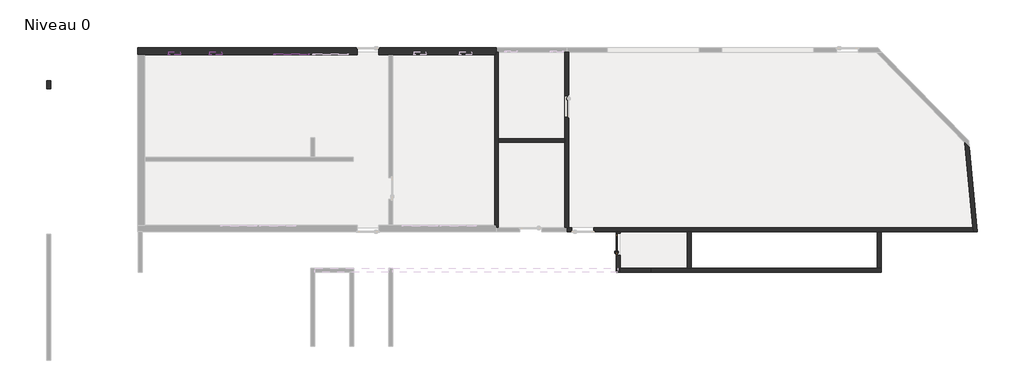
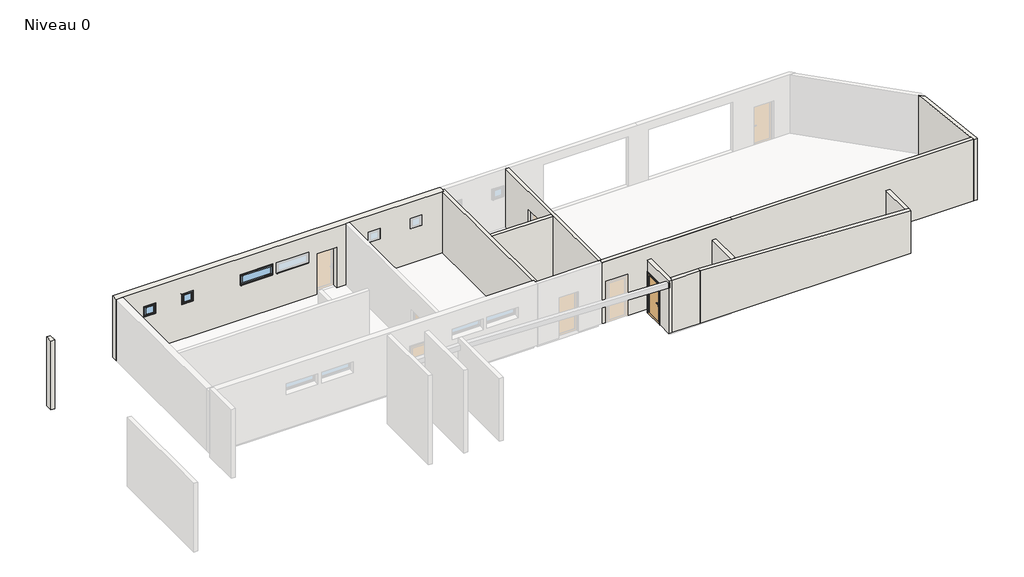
# One storey, part 2 of 3: 12 walls, 3 windows, 1 door.
"""IFC4 building model written with IfcOpenShell, lengths in millimetres."""

from ifc_helpers import new_model, si_unit, frame, origin, origin_with_axes, place, context, project, spatial, polyline, circle_curve, outline, extrude, faceted_brep, transform, mapped, element, save
from ifc_brep_helpers import plane_surface, revolved_surface, advanced_brep
from components import pvc_panneau_plein_0_93_x_2_04_155e41a3, rect_1_fixe_150x50_26ae5af5, rect_1_fixe_50x50_addd11ee

model = new_model("IFC4")

# Units and contexts
model_context = context("Model", 3, world=origin())
ifc_project = project(units=[si_unit("LENGTHUNIT", "METRE", prefix="MILLI")], contexts=[model_context])

# Site, building, storey
site = spatial("IfcSite", under=ifc_project)
building = spatial("IfcBuilding", under=site)
storey = spatial("IfcBuildingStorey", under=building, Name="Niveau 0", Elevation=0.0)

# Door
placement = place(None, origin())
pvc_panneau_plein_0_93_x_2_04_shape = pvc_panneau_plein_0_93_x_2_04_155e41a3(model_context)
element("IfcDoor", 1, ObjectType="PVC Panneau Plein : 0.93 x 2.04", at=placement, inside=storey, context=model_context, shape_type="MappedRepresentation", body=[
    mapped(pvc_panneau_plein_0_93_x_2_04_shape, transform((8619.8348013, -5570.8814156, -170.0), x_axis=(0.0, 1.0, 0.0), y_axis=(-1.0, 0.0, 0.0), z_axis=(0.0, 0.0, 1.0))),
])

# Walls
element("IfcWall", 2, ObjectType="Refend. Voile BA 16", at=placement, inside=storey, context=model_context, shape_type="Brep", body=[
    faceted_brep([(3360.5386339, -4850.8814156, 0.0), (3360.5386339, -4445.8603832, 0.0), (3360.5386339, -4265.8603832, 0.0), (3360.5386339, -1114.4275897, 0.0), (3360.5386339, -954.4275897, 0.0), (3360.5386339, 2829.1185844, 0.0), (3360.5386339, 2829.1185844, 3100.0), (3360.5386339, -954.4275897, 3100.0), (3360.5386339, -1114.4275897, 3100.0), (3360.5386339, -4850.8814156, 3100.0), (3200.5386339, -4730.8814156, 0.0), (3200.5386339, -4730.8814156, 3100.0), (3200.5386339, 2709.1185844, 3100.0), (3200.5386339, 2709.1185844, 0.0), (3200.5386339, -4265.8603832, 0.0), (3200.5386339, -4445.8603832, 0.0), (3280.5386339, -4850.8814156, 0.0), (3280.5386339, -4730.8814156, 0.0), (3280.5386339, 2709.1185844, 0.0), (3280.5386339, 2829.1185844, 0.0), (3280.5386339, -4850.8814156, 3100.0), (3280.5386339, -4730.8814156, 3100.0), (3280.5386339, 2829.1185844, 3100.0), (3280.5386339, 2709.1185844, 3100.0)], [[[0, 1, 2, 3, 4, 5, 6, 7, 8, 9]], [[10, 11, 12, 13, 14, 15]], [[5, 4, 3, 2, 1, 0, 16, 17, 10, 15, 14, 13, 18, 19]], [[0, 9, 20, 16]], [[20, 21, 17, 16]], [[21, 11, 10, 17]], [[6, 5, 19, 22]], [[19, 18, 23, 22]], [[18, 13, 12, 23]], [[9, 8, 7, 6, 22, 23, 12, 11, 21, 20]]]),
])
element("IfcWall", 3, ObjectType="Refend. Voile BA 16", at=placement, inside=storey, context=model_context, shape_type="SweptSolid", body=[
    extrude(outline(polyline([(6280.5386339, -1114.4275897), (3360.5386339, -1114.4275897), (3360.5386339, -954.4275897), (6280.5386339, -954.4275897), (6280.5386339, -1114.4275897)])), origin_with_axes(), (0.0, 0.0, 1.0), 3100.0),
])
element("IfcWall", 4, ObjectType="Refend. Voile BA 16", at=placement, inside=storey, context=model_context, shape_type="Brep", body=[
    faceted_brep([(6440.5386339, -4850.8814156, 0.0), (6440.5386339, 2829.1185844, 0.0), (6440.5386339, 2829.1185844, 3100.0), (6440.5386339, -4850.8814156, 3100.0), (6440.5386339, -29.4275897, 150.0), (6440.5386339, -69.4275897, 150.0), (6440.5386339, -69.4275897, 2240.0), (6440.5386339, 960.5724103, 2240.0), (6440.5386339, 960.5724103, 150.0), (6440.5386339, 920.5724103, 150.0), (6280.5386339, 2829.1185844, 0.0), (6280.5386339, -954.4275897, 0.0), (6280.5386339, -1114.4275897, 0.0), (6280.5386339, -4850.8814156, 0.0), (6280.5386339, -4850.8814156, 3100.0), (6280.5386339, -1114.4275897, 3100.0), (6280.5386339, -954.4275897, 3100.0), (6280.5386339, 2829.1185844, 3100.0), (6280.5386339, 920.5724103, 2200.0), (6280.5386339, -29.4275897, 2200.0), (6280.5386339, -29.4275897, 150.0), (6280.5386339, 920.5724103, 150.0), (6360.5386339, -4850.8814156, 0.0), (6360.5386339, 2829.1185844, 0.0), (6360.5386339, 2829.1185844, 3100.0), (6360.5386339, -4850.8814156, 3100.0), (6390.5386339, 920.5724103, 2200.0), (6390.5386339, -29.4275897, 2200.0), (6390.5386339, -29.4275897, 150.0), (6390.5386339, -69.4275897, 150.0), (6390.5386339, 960.5724103, 150.0), (6390.5386339, 920.5724103, 150.0), (6390.5386339, 960.5724103, 2240.0), (6390.5386339, -69.4275897, 2240.0)], [[[0, 1, 2, 3], [4, 5, 6, 7, 8, 9]], [[10, 11, 12, 13, 14, 15, 16, 17], [18, 19, 20, 21]], [[1, 0, 22, 13, 12, 11, 10, 23]], [[2, 1, 23, 10, 17, 24]], [[0, 3, 25, 14, 13, 22]], [[26, 27, 19, 18]], [[28, 29, 5, 4, 9, 8, 30, 31, 21, 20]], [[31, 26, 18, 21]], [[27, 28, 20, 19]], [[30, 8, 7, 32]], [[27, 26, 31, 30, 32, 33, 29, 28]], [[32, 7, 6, 33]], [[5, 29, 33, 6]], [[3, 2, 24, 17, 16, 15, 14, 25]]]),
])
element("IfcWall", 5, ObjectType="Ext. Voile BA 18", at=placement, inside=storey, context=model_context, shape_type="Brep", body=[
    faceted_brep([(23743.4784294, -1128.0520946, 0.0), (24105.7807489, -4850.8814156, 0.0), (24123.2981831, -5030.8814156, 0.0), (24123.2981831, -5030.8814156, 3099.1810012), (23743.4784294, -1128.0520946, 3099.1810012), (23944.319839, -1333.4694532, 0.0), (23944.319839, -1333.4694532, 3092.5272383), (23944.319839, -1333.4694532, 3099.1810012), (24304.1485646, -5030.8814156, 3099.1810012), (24304.1485646, -5030.8814156, 0.0)], [[[0, 1, 2, 3, 4]], [[5, 6, 7, 8, 9]], [[2, 1, 0, 5, 9]], [[4, 3, 8, 7]], [[0, 4, 7, 6, 5]], [[3, 2, 9, 8]]]),
])
element("IfcWall", 6, ObjectType="Ext. Voile BA 18", at=placement, inside=storey, context=model_context, shape_type="Brep", body=[
    faceted_brep([(6360.5386339, -4850.8814156, 0.0), (6360.5386339, -4850.8814156, 3100.0), (6440.5386339, -4850.8814156, 3100.0), (12600.4855864, -4850.8814156, 3100.0), (24105.7807489, -4850.8814156, 3100.0), (24105.7807489, -4850.8814156, 0.0), (7535.5386339, -4850.8814156, 0.0), (7535.5386339, -4850.8814156, 2050.0), (6585.5386339, -4850.8814156, 2050.0), (6585.5386339, -4850.8814156, 0.0), (6440.5386339, -4850.8814156, 0.0), (6360.5386339, -5030.8814156, 3100.0), (6360.5386339, -5030.8814156, 0.0), (6545.5386339, -5030.8814156, 0.0), (6545.5386339, -5030.8814156, 2090.0), (7575.5386339, -5030.8814156, 2090.0), (7575.5386339, -5030.8814156, 0.0), (24123.2981831, -5030.8814156, 0.0), (24123.2981831, -5030.8814156, 3099.1810012), (24123.2981831, -5030.8814156, 3100.0), (12600.4855864, -5030.8814156, 3100.0), (7575.5386339, -4980.8814156, 0.0), (7535.5386339, -4980.8814156, 0.0), (6585.5386339, -4980.8814156, 0.0), (6545.5386339, -4980.8814156, 0.0), (6360.5386339, -5025.8814156, 3100.0), (24122.8115877, -5025.8814156, 3100.0), (7535.5386339, -4980.8814156, 2050.0), (6585.5386339, -4980.8814156, 2050.0), (6545.5386339, -4980.8814156, 2090.0), (7575.5386339, -4980.8814156, 2090.0), (12600.4855864, -5025.8814156, 3100.0)], [[[0, 1, 2, 3, 4, 5, 6, 7, 8, 9, 10]], [[11, 12, 13, 14, 15, 16, 17, 18, 19, 20]], [[5, 17, 16, 21, 22, 6]], [[12, 0, 10, 9, 23, 24, 13]], [[1, 0, 12, 11, 25]], [[5, 4, 26, 19, 18, 17]], [[27, 28, 8, 7]], [[28, 23, 9, 8]], [[22, 27, 7, 6]], [[24, 29, 14, 13]], [[28, 27, 22, 21, 30, 29, 24, 23]], [[14, 29, 30, 15]], [[30, 21, 16, 15]], [[11, 20, 31, 25]], [[4, 3, 31, 26]], [[20, 19, 26, 31]], [[3, 2, 1, 25, 31]]]),
])
element("IfcWall", 7, ObjectType="Ext. Voile BA 18", at=placement, inside=storey, context=model_context, shape_type="SweptSolid", body=[
    extrude(outline(polyline([(19926.0412311, -6620.8814156), (19926.0412311, -5030.8814156), (20106.0412311, -5030.8814156), (20106.0412311, -6620.8814156), (19926.0412311, -6620.8814156)])), frame((0.0, 0.0, -170.0), z_axis=(0.0, 0.0, 1.0), x_axis=(1.0, 0.0, 0.0)), (0.0, 0.0, 1.0), 2160.0),
])
element("IfcWall", 8, ObjectType="Ext. Voile BA 18", at=placement, inside=storey, context=model_context, shape_type="Brep", body=[
    faceted_brep([(20106.0412311, -6620.8814156, -170.0), (19926.0412311, -6620.8814156, -170.0), (11806.041231, -6620.8814156, -170.0), (11626.041231, -6620.8814156, -170.0), (10026.0412311, -6620.8814156, -170.0), (10026.0412311, -6620.8814156, 2465.7522124), (20106.0412311, -6620.8814156, 1990.0), (20106.0412311, -6800.8814156, -170.0), (20106.0412311, -6800.8814156, 1990.0), (10026.0412311, -6800.8814156, 2465.7522124), (10026.0412311, -6800.8814156, -170.0)], [[[0, 1, 2, 3, 4, 5, 6]], [[7, 8, 9, 10]], [[4, 3, 2, 1, 0, 7, 10]], [[5, 4, 10, 9]], [[0, 6, 8, 7]], [[6, 5, 9, 8]]]),
])
element("IfcWall", 9, ObjectType="Ext. Voile BA 18", at=placement, inside=storey, context=model_context, shape_type="Brep", body=[
    faceted_brep([(8526.041231, -6800.8814156, 2470.0), (8526.041231, -5030.8814156, 2470.0), (8526.041231, -5030.8814156, -170.0), (8526.041231, -5055.8814156, -170.0), (8526.041231, -5055.8814156, 1920.0), (8526.041231, -6085.8814156, 1920.0), (8526.041231, -6085.8814156, -170.0), (8526.041231, -6800.8814156, -170.0), (8706.041231, -5030.8814156, 2470.0), (8706.041231, -6620.8814156, 2470.0), (8706.041231, -6800.8814156, 2470.0), (8706.041231, -6800.8814156, -170.0), (8706.041231, -6620.8814156, -170.0), (8706.041231, -6045.8814156, -170.0), (8706.041231, -6045.8814156, 1880.0), (8706.041231, -5095.8814156, 1880.0), (8706.041231, -5095.8814156, -170.0), (8706.041231, -5030.8814156, -170.0), (8576.041231, -5095.8814156, -170.0), (8576.041231, -5055.8814156, -170.0), (8576.041231, -6085.8814156, -170.0), (8576.041231, -6045.8814156, -170.0), (8576.041231, -6045.8814156, 1880.0), (8576.041231, -5095.8814156, 1880.0), (8576.041231, -6085.8814156, 1920.0), (8576.041231, -5055.8814156, 1920.0)], [[[0, 1, 2, 3, 4, 5, 6, 7]], [[8, 9, 10, 11, 12, 13, 14, 15, 16, 17]], [[2, 17, 16, 18, 19, 3]], [[11, 7, 6, 20, 21, 13, 12]], [[1, 0, 10, 9, 8]], [[2, 1, 8, 17]], [[22, 23, 15, 14]], [[21, 22, 14, 13]], [[23, 18, 16, 15]], [[5, 24, 20, 6]], [[23, 22, 21, 20, 24, 25, 19, 18]], [[24, 5, 4, 25]], [[19, 25, 4, 3]], [[0, 7, 11, 10]]]),
])
element("IfcWall", 10, ObjectType="Ext. Voile BA 18", at=placement, inside=storey, context=model_context, shape_type="SweptSolid", body=[
    extrude(outline(polyline([(11626.041231, -6620.8814156), (11626.041231, -5030.8814156), (11806.041231, -5030.8814156), (11806.041231, -6620.8814156), (11626.041231, -6620.8814156)])), frame((0.0, 0.0, -170.0), z_axis=(0.0, 0.0, 1.0), x_axis=(1.0, 0.0, 0.0)), (0.0, 0.0, 1.0), 2563.7147573),
])
element("IfcWall", 11, ObjectType="Ext. Voile BA 18", at=placement, inside=storey, context=model_context, shape_type="SweptSolid", body=[
    extrude(outline(polyline([(-16373.958769, 1219.1185844), (-16373.958769, 1569.1185844), (-16193.958769, 1569.1185844), (-16193.958769, 1219.1185844), (-16373.958769, 1219.1185844)])), frame((0.0, 0.0, -170.0), z_axis=(0.0, 0.0, 1.0), x_axis=(1.0, 0.0, 0.0)), (0.0, 0.0, 1.0), 3470.0),
])
element("IfcWall", 12, ObjectType="Ext. Voile BA 18", at=placement, inside=storey, context=model_context, shape_type="Brep", body=[
    faceted_brep([(10026.0412311, -6620.8814156, -170.0), (8706.041231, -6620.8814156, -170.0), (8706.041231, -6620.8814156, 2470.0), (10026.0412311, -6620.8814156, 2470.0), (10026.0412311, -6620.8814156, 2465.7522124), (10026.0412311, -6800.8814156, -170.0), (10026.0412311, -6800.8814156, 2465.7522124), (10026.0412311, -6800.8814156, 2470.0), (8706.041231, -6800.8814156, 2470.0), (8706.041231, -6800.8814156, -170.0)], [[[0, 1, 2, 3, 4]], [[5, 6, 7, 8, 9]], [[1, 0, 5, 9]], [[3, 2, 8, 7]], [[0, 4, 3, 7, 6, 5]], [[2, 1, 9, 8]]]),
])
element("IfcWall", 13, ObjectType="Ext. Voile BA 18 + Isolant 12", at=placement, inside=storey, context=model_context, shape_type="AdvancedBrep", body=[
    advanced_brep(
    [(3280.5386339, 2709.1185844, 0.0), (3280.5386339, 2709.1185844, 3100.0), (3200.5386339, 2709.1185844, 3100.0), (-1253.958769, 2709.1185844, 3100.0), (-1413.958769, 2709.1185844, 3100.0), (-12083.9657883, 2709.1185844, 3100.0), (-12383.9657883, 2709.1185844, 3100.0), (-12383.9657883, 2709.1185844, 0.0), (-12083.9657883, 2709.1185844, 0.0), (-2798.958769, 2709.1185844, 0.0), (-2798.958769, 2709.1185844, 2050.0), (-1848.958769, 2709.1185844, 2050.0), (-1848.958769, 2709.1185844, 0.0), (-1413.958769, 2709.1185844, 0.0), (-1253.958769, 2709.1185844, 0.0), (3200.5386339, 2709.1185844, 0.0), (-10503.9657883, 2709.1185844, 2280.0), (-10503.9657883, 2709.1185844, 1750.0), (-11063.9657883, 2709.1185844, 1750.0), (-11063.9657883, 2709.1185844, 2280.0), (-8703.9657883, 2709.1185844, 2280.0), (-8703.9657883, 2709.1185844, 1750.0), (-9263.9657883, 2709.1185844, 1750.0), (-9263.9657883, 2709.1185844, 2280.0), (226.041231, 2709.1185844, 2280.0), (226.041231, 2709.1185844, 1750.0), (-333.958769, 2709.1185844, 1750.0), (-333.958769, 2709.1185844, 2280.0), (2216.0412311, 2709.1185844, 2280.0), (2216.0412311, 2709.1185844, 1750.0), (1656.0412311, 2709.1185844, 1750.0), (1656.0412311, 2709.1185844, 2280.0), (-4893.958769, 2709.1185844, 2280.0), (-4893.958769, 2709.1185844, 1750.0), (-4913.958769, 2709.1185844, 1750.0), (-4923.958769, 2709.1185844, 1750.0), (-4923.958769, 2709.1185844, 1720.5497907), (-6423.958769, 2709.1185844, 1720.5497907), (-6423.958769, 2709.1185844, 1750.0), (-6433.958769, 2709.1185844, 1750.0), (-6453.958769, 2709.1185844, 1750.0), (-6453.958769, 2709.1185844, 2280.0), (-3183.000001, 2709.1185844, 2280.0), (-3183.000001, 2709.1185844, 1750.0), (-3203.000001, 2709.1185844, 1750.0), (-3213.000001, 2709.1185844, 1750.0), (-3213.000001, 2709.1185844, 1720.5497907), (-4713.000001, 2709.1185844, 1720.5497907), (-4713.000001, 2709.1185844, 1750.0), (-4723.000001, 2709.1185844, 1750.0), (-4743.000001, 2709.1185844, 1750.0), (-4743.000001, 2709.1185844, 2280.0), (3280.5386339, 3009.1185844, 3100.0), (3280.5386339, 3009.1185844, 0.0), (-1808.958769, 3009.1185844, 0.0), (-1808.958769, 3009.1185844, 2090.0), (-2838.958769, 3009.1185844, 2090.0), (-2838.958769, 3009.1185844, 0.0), (-12383.9657883, 3009.1185844, 0.0), (-12383.9657883, 3009.1185844, 3100.0), (-11033.9657883, 3009.1185844, 2250.0), (-11033.9657883, 3009.1185844, 1700.0), (-10533.9657883, 3009.1185844, 1700.0), (-10533.9657883, 3009.1185844, 2250.0), (-9233.9657883, 3009.1185844, 2250.0), (-9233.9657883, 3009.1185844, 1700.0), (-8733.9657883, 3009.1185844, 1700.0), (-8733.9657883, 3009.1185844, 2250.0), (-303.958769, 3009.1185844, 2250.0), (-303.958769, 3009.1185844, 1700.0), (196.041231, 3009.1185844, 1700.0), (196.041231, 3009.1185844, 2250.0), (1686.0412311, 3009.1185844, 2250.0), (1686.0412311, 3009.1185844, 1700.0), (2186.0412311, 3009.1185844, 1700.0), (2186.0412311, 3009.1185844, 2250.0), (-6423.958769, 3009.1185844, 2250.0), (-6423.958769, 3009.1185844, 1700.0), (-4923.958769, 3009.1185844, 1700.0), (-4923.958769, 3009.1185844, 2250.0), (-4713.000001, 3009.1185844, 2250.0), (-4713.000001, 3009.1185844, 1700.0), (-3213.000001, 3009.1185844, 1700.0), (-3213.000001, 3009.1185844, 2250.0), (-2838.958769, 2959.1185844, 0.0), (-2798.958769, 2959.1185844, 0.0), (3280.5386339, 2829.1185844, 0.0), (-1848.958769, 2959.1185844, 0.0), (-1808.958769, 2959.1185844, 0.0), (3280.5386339, 2829.1185844, 3100.0), (-10503.9657883, 2759.1185844, 2280.0), (-11063.9657883, 2759.1185844, 2280.0), (-11063.9657883, 2759.1185844, 1750.0), (-11043.9657883, 2759.1185844, 1750.0), (-11043.9657883, 2759.1185844, 2260.0), (-10523.9657883, 2759.1185844, 2260.0), (-10523.9657883, 2759.1185844, 1750.0), (-10503.9657883, 2759.1185844, 1750.0), (-10523.9657883, 2829.1185844, 1750.0), (-10533.9657883, 2829.1185844, 1750.0), (-10533.9657883, 2819.1185844, 1750.0), (-11033.9657883, 2819.1185844, 1750.0), (-11033.9657883, 2829.1185844, 1750.0), (-11043.9657883, 2829.1185844, 1750.0), (-11033.9657883, 2829.1185844, 2250.0), (-11033.9657883, 2819.1185844, 1737.7995799), (-11033.9657883, 2834.2090516, 1718.4115298), (-10533.9657883, 2829.1185844, 2250.0), (-10533.9657883, 2834.2090516, 1718.4115298), (-10533.9657883, 2819.1185844, 1737.7995799), (-11043.9657883, 2829.1185844, 2260.0), (-10523.9657883, 2829.1185844, 2260.0), (-8703.9657883, 2759.1185844, 2280.0), (-9263.9657883, 2759.1185844, 2280.0), (-9263.9657883, 2759.1185844, 1750.0), (-9243.9657883, 2759.1185844, 1750.0), (-9243.9657883, 2759.1185844, 2260.0), (-8723.9657883, 2759.1185844, 2260.0), (-8723.9657883, 2759.1185844, 1750.0), (-8703.9657883, 2759.1185844, 1750.0), (-8723.9657883, 2829.1185844, 1750.0), (-8733.9657883, 2829.1185844, 1750.0), (-8733.9657883, 2819.1185844, 1750.0), (-9233.9657883, 2819.1185844, 1750.0), (-9233.9657883, 2829.1185844, 1750.0), (-9243.9657883, 2829.1185844, 1750.0), (-9233.9657883, 2829.1185844, 2250.0), (-9233.9657883, 2819.1185844, 1737.7995799), (-9233.9657883, 2834.2090516, 1718.4115298), (-8733.9657883, 2829.1185844, 2250.0), (-8733.9657883, 2834.2090516, 1718.4115298), (-8733.9657883, 2819.1185844, 1737.7995799), (-9243.9657883, 2829.1185844, 2260.0), (-8723.9657883, 2829.1185844, 2260.0), (226.041231, 2759.1185844, 2280.0), (-333.958769, 2759.1185844, 2280.0), (-333.958769, 2759.1185844, 1750.0), (-313.958769, 2759.1185844, 1750.0), (-313.958769, 2759.1185844, 2260.0), (206.041231, 2759.1185844, 2260.0), (206.041231, 2759.1185844, 1750.0), (226.041231, 2759.1185844, 1750.0), (206.041231, 2829.1185844, 1750.0), (196.041231, 2829.1185844, 1750.0), (196.041231, 2819.1185844, 1750.0), (-303.958769, 2819.1185844, 1750.0), (-303.958769, 2829.1185844, 1750.0), (-313.958769, 2829.1185844, 1750.0), (-303.958769, 2829.1185844, 2250.0), (-303.958769, 2819.1185844, 1737.7995799), (-303.958769, 2834.2090516, 1718.4115298), (196.041231, 2829.1185844, 2250.0), (196.041231, 2834.2090516, 1718.4115298), (196.041231, 2819.1185844, 1737.7995799), (-313.958769, 2829.1185844, 2260.0), (206.041231, 2829.1185844, 2260.0), (2216.0412311, 2759.1185844, 2280.0), (1656.0412311, 2759.1185844, 2280.0), (1656.0412311, 2759.1185844, 1750.0), (1676.0412311, 2759.1185844, 1750.0), (1676.0412311, 2759.1185844, 2260.0), (2196.0412311, 2759.1185844, 2260.0), (2196.0412311, 2759.1185844, 1750.0), (2216.0412311, 2759.1185844, 1750.0), (2196.0412311, 2829.1185844, 1750.0), (2186.0412311, 2829.1185844, 1750.0), (2186.0412311, 2819.1185844, 1750.0), (1686.0412311, 2819.1185844, 1750.0), (1686.0412311, 2829.1185844, 1750.0), (1676.0412311, 2829.1185844, 1750.0), (1686.0412311, 2829.1185844, 2250.0), (1686.0412311, 2819.1185844, 1737.7995799), (1686.0412311, 2834.2090516, 1718.4115298), (2186.0412311, 2829.1185844, 2250.0), (2186.0412311, 2834.2090516, 1718.4115298), (2186.0412311, 2819.1185844, 1737.7995799), (1676.0412311, 2829.1185844, 2260.0), (2196.0412311, 2829.1185844, 2260.0), (-4893.958769, 2759.1185844, 2280.0), (-6453.958769, 2759.1185844, 2280.0), (-6453.958769, 2759.1185844, 1750.0), (-6433.958769, 2759.1185844, 1750.0), (-6423.958769, 2759.1185844, 1750.0), (-6423.958769, 2759.1185844, 2250.0), (-4923.958769, 2759.1185844, 2250.0), (-4923.958769, 2759.1185844, 1750.0), (-4913.958769, 2759.1185844, 1750.0), (-4893.958769, 2759.1185844, 1750.0), (-6423.958769, 2723.739873, 1718.4115298), (-4923.958769, 2723.739873, 1718.4115298), (-3183.000001, 2759.1185844, 2280.0), (-4743.000001, 2759.1185844, 2280.0), (-4743.000001, 2759.1185844, 1750.0), (-4723.000001, 2759.1185844, 1750.0), (-4713.000001, 2759.1185844, 1750.0), (-4713.000001, 2759.1185844, 2250.0), (-3213.000001, 2759.1185844, 2250.0), (-3213.000001, 2759.1185844, 1750.0), (-3203.000001, 2759.1185844, 1750.0), (-3183.000001, 2759.1185844, 1750.0), (-4713.000001, 2723.739873, 1718.4115298), (-3213.000001, 2723.739873, 1718.4115298), (-2798.958769, 2959.1185844, 2050.0), (-1848.958769, 2959.1185844, 2050.0), (-1808.958769, 2959.1185844, 2090.0), (-2838.958769, 2959.1185844, 2090.0)],
    [
        (0, 1),
        (1, 2),
        (2, 3),
        (3, 4),
        (4, 5),
        (5, 6),
        (6, 7),
        (7, 8),
        (8, 9),
        (9, 10),
        (10, 11),
        (11, 12),
        (12, 13),
        (13, 14),
        (14, 15),
        (15, 0),
        (16, 17),
        (17, 18),
        (18, 19),
        (19, 16),
        (20, 21),
        (21, 22),
        (22, 23),
        (23, 20),
        (24, 25),
        (25, 26),
        (26, 27),
        (27, 24),
        (28, 29),
        (29, 30),
        (30, 31),
        (31, 28),
        (32, 33),
        (33, 34),
        (34, 35),
        (35, 36),
        (36, 37),
        (37, 38),
        (38, 39),
        (39, 40),
        (40, 41),
        (41, 32),
        (42, 43),
        (43, 44),
        (44, 45),
        (45, 46),
        (46, 47),
        (47, 48),
        (48, 49),
        (49, 50),
        (50, 51),
        (51, 42),
        (52, 53),
        (53, 54),
        (54, 55),
        (55, 56),
        (56, 57),
        (57, 58),
        (58, 59),
        (59, 52),
        (60, 61),
        (61, 62),
        (62, 63),
        (63, 60),
        (64, 65),
        (65, 66),
        (66, 67),
        (67, 64),
        (68, 69),
        (69, 70),
        (70, 71),
        (71, 68),
        (72, 73),
        (73, 74),
        (74, 75),
        (75, 72),
        (76, 77),
        (77, 78),
        (78, 79),
        (79, 76),
        (80, 81),
        (81, 82),
        (82, 83),
        (83, 80),
        (7, 58),
        (57, 84),
        (84, 85),
        (85, 9),
        (53, 86),
        (86, 0),
        (12, 87),
        (87, 88),
        (88, 54),
        (52, 89),
        (89, 1),
        (6, 59),
        (90, 91),
        (91, 92),
        (92, 93),
        (93, 94),
        (94, 95),
        (95, 96),
        (96, 97),
        (97, 90),
        (97, 17),
        (16, 90),
        (96, 98),
        (98, 99),
        (99, 100),
        (100, 101),
        (101, 102),
        (102, 103),
        (103, 93),
        (92, 18),
        (91, 19),
        (60, 104),
        (104, 102),
        (101, 105),
        (105, 106, circle_curve(frame((-11033.9657883, 2839.1185844, 1737.7995799), z_axis=(1.0, 0.0, 0.0), x_axis=(0.0, 1.0, 0.0)), 20.0)),
        (106, 61),
        (107, 63),
        (62, 108),
        (108, 109, circle_curve(frame((-10533.9657883, 2839.1185844, 1737.7995799), z_axis=(-1.0, 0.0, 0.0), x_axis=(0.0, 1.0, 0.0)), 20.0)),
        (109, 100),
        (99, 107),
        (107, 104),
        (110, 103),
        (98, 111),
        (111, 110),
        (110, 94),
        (95, 111),
        (109, 105),
        (108, 106),
        (112, 113),
        (113, 114),
        (114, 115),
        (115, 116),
        (116, 117),
        (117, 118),
        (118, 119),
        (119, 112),
        (119, 21),
        (20, 112),
        (118, 120),
        (120, 121),
        (121, 122),
        (122, 123),
        (123, 124),
        (124, 125),
        (125, 115),
        (114, 22),
        (113, 23),
        (64, 126),
        (126, 124),
        (123, 127),
        (127, 128, circle_curve(frame((-9233.9657883, 2839.1185844, 1737.7995799), z_axis=(1.0, 0.0, 0.0), x_axis=(0.0, 1.0, 0.0)), 20.0)),
        (128, 65),
        (129, 67),
        (66, 130),
        (130, 131, circle_curve(frame((-8733.9657883, 2839.1185844, 1737.7995799), z_axis=(-1.0, 0.0, 0.0), x_axis=(0.0, 1.0, 0.0)), 20.0)),
        (131, 122),
        (121, 129),
        (129, 126),
        (132, 125),
        (120, 133),
        (133, 132),
        (132, 116),
        (117, 133),
        (131, 127),
        (130, 128),
        (134, 135),
        (135, 136),
        (136, 137),
        (137, 138),
        (138, 139),
        (139, 140),
        (140, 141),
        (141, 134),
        (141, 25),
        (24, 134),
        (140, 142),
        (142, 143),
        (143, 144),
        (144, 145),
        (145, 146),
        (146, 147),
        (147, 137),
        (136, 26),
        (135, 27),
        (68, 148),
        (148, 146),
        (145, 149),
        (149, 150, circle_curve(frame((-303.958769, 2839.1185844, 1737.7995799), z_axis=(1.0, 0.0, 0.0), x_axis=(0.0, 1.0, 0.0)), 20.0)),
        (150, 69),
        (151, 71),
        (70, 152),
        (152, 153, circle_curve(frame((196.041231, 2839.1185844, 1737.7995799), z_axis=(-1.0, 0.0, 0.0), x_axis=(0.0, 1.0, 0.0)), 20.0)),
        (153, 144),
        (143, 151),
        (151, 148),
        (154, 147),
        (142, 155),
        (155, 154),
        (154, 138),
        (139, 155),
        (153, 149),
        (152, 150),
        (156, 157),
        (157, 158),
        (158, 159),
        (159, 160),
        (160, 161),
        (161, 162),
        (162, 163),
        (163, 156),
        (163, 29),
        (28, 156),
        (162, 164),
        (164, 165),
        (165, 166),
        (166, 167),
        (167, 168),
        (168, 169),
        (169, 159),
        (158, 30),
        (157, 31),
        (72, 170),
        (170, 168),
        (167, 171),
        (171, 172, circle_curve(frame((1686.0412311, 2839.1185844, 1737.7995799), z_axis=(1.0, 0.0, 0.0), x_axis=(0.0, 1.0, 0.0)), 20.0)),
        (172, 73),
        (173, 75),
        (74, 174),
        (174, 175, circle_curve(frame((2186.0412311, 2839.1185844, 1737.7995799), z_axis=(-1.0, 0.0, 0.0), x_axis=(0.0, 1.0, 0.0)), 20.0)),
        (175, 166),
        (165, 173),
        (173, 170),
        (176, 169),
        (164, 177),
        (177, 176),
        (176, 160),
        (161, 177),
        (175, 171),
        (174, 172),
        (178, 179),
        (179, 180),
        (180, 181),
        (181, 182),
        (182, 183),
        (183, 184),
        (184, 185),
        (185, 186),
        (186, 187),
        (187, 178),
        (187, 33),
        (32, 178),
        (185, 35),
        (180, 40),
        (38, 182),
        (179, 41),
        (76, 183),
        (37, 188, circle_curve(frame((-6423.958769, 2719.1185844, 1737.8702988), z_axis=(1.0, 0.0, 0.0), x_axis=(0.0, 1.0, 0.0)), 20.0)),
        (188, 77),
        (184, 79),
        (78, 189),
        (189, 36, circle_curve(frame((-4923.958769, 2719.1185844, 1737.8702988), z_axis=(-1.0, 0.0, 0.0), x_axis=(0.0, 1.0, 0.0)), 20.0)),
        (189, 188),
        (190, 191),
        (191, 192),
        (192, 193),
        (193, 194),
        (194, 195),
        (195, 196),
        (196, 197),
        (197, 198),
        (198, 199),
        (199, 190),
        (199, 43),
        (42, 190),
        (197, 45),
        (192, 50),
        (48, 194),
        (191, 51),
        (80, 195),
        (47, 200, circle_curve(frame((-4713.000001, 2719.1185844, 1737.8702988), z_axis=(1.0, 0.0, 0.0), x_axis=(0.0, 1.0, 0.0)), 20.0)),
        (200, 81),
        (196, 83),
        (82, 201),
        (201, 46, circle_curve(frame((-3213.000001, 2719.1185844, 1737.8702988), z_axis=(-1.0, 0.0, 0.0), x_axis=(0.0, 1.0, 0.0)), 20.0)),
        (201, 200),
        (202, 203),
        (203, 11),
        (10, 202),
        (203, 87),
        (85, 202),
        (88, 204),
        (204, 55),
        (84, 205),
        (205, 204),
        (205, 56),
    ],
    [
        plane_surface(frame((-12349.4613661, 2709.1185844, 0.0), z_axis=(0.0, -1.0, 0.0), x_axis=(1.0, 0.0, 0.0))),
        plane_surface(frame((-12349.4613661, 3009.1185844, 0.0), z_axis=(0.0, 1.0, 0.0), x_axis=(-1.0, 0.0, 0.0))),
        plane_surface(frame((-12233.9657883, 2709.1185844, 0.0), z_axis=(0.0, 0.0, -1.0), x_axis=(0.0, 1.0, 0.0))),
        plane_surface(frame((3280.5386339, 2709.1185844, 0.0), z_axis=(1.0, 0.0, 0.0), x_axis=(0.0, 1.0, 0.0))),
        plane_surface(frame((-12383.9657883, -5030.8814156, 0.0), z_axis=(-1.0, 0.0, 0.0), x_axis=(0.0, -1.0, 0.0))),
        plane_surface(frame((-10503.9657883, 2759.1185844, 2280.0), z_axis=(0.0, -1.0, 0.0), x_axis=(0.0, 0.0, -1.0))),
        plane_surface(frame((-10503.9657883, 2759.1185844, 2280.0), z_axis=(-1.0, 0.0, 0.0), x_axis=(0.0, -1.0, 0.0))),
        plane_surface(frame((-10503.9657883, 2759.1185844, 1750.0), z_axis=(0.0, 0.0, 1.0), x_axis=(0.0, -1.0, 0.0))),
        plane_surface(frame((-11063.9657883, 2759.1185844, 1750.0), z_axis=(1.0, 0.0, 0.0), x_axis=(0.0, -1.0, 0.0))),
        plane_surface(frame((-11063.9657883, 2759.1185844, 2280.0), z_axis=(0.0, 0.0, -1.0), x_axis=(0.0, -1.0, 0.0))),
        plane_surface(frame((-11033.9657883, 2829.1185844, 2250.0), z_axis=(1.0, 0.0, 0.0), x_axis=(0.0, 1.0, 0.0))),
        plane_surface(frame((-10533.9657883, 2829.1185844, 1750.0), z_axis=(-1.0, 0.0, 0.0), x_axis=(0.0, 1.0, 0.0))),
        plane_surface(frame((-10533.9657883, 2829.1185844, 2250.0), z_axis=(0.0, 0.0, -1.0), x_axis=(0.0, 1.0, 0.0))),
        plane_surface(frame((-11043.9657883, 2829.1185844, 2260.0), z_axis=(0.0, -1.0, 0.0), x_axis=(0.0, 0.0, 1.0))),
        plane_surface(frame((-11043.9657883, 2759.1185844, 2260.0), z_axis=(1.0, 0.0, 0.0), x_axis=(0.0, 1.0, 0.0))),
        plane_surface(frame((-10523.9657883, 2759.1185844, 1750.0), z_axis=(-1.0, 0.0, 0.0), x_axis=(0.0, 1.0, 0.0))),
        plane_surface(frame((-10523.9657883, 2759.1185844, 2260.0), z_axis=(0.0, 0.0, -1.0), x_axis=(0.0, 1.0, 0.0))),
        plane_surface(frame((-10533.9657883, 2819.1185844, 1750.0), z_axis=(0.0, 1.0, 0.0), x_axis=(-1.0, 0.0, 0.0))),
        revolved_surface(polyline([(-10533.9657883, 2859.1185844, 1737.7995799), (-11033.9657883, 2859.1185844, 1737.7995799)]), (-11033.9657883, 2839.1185844, 1737.7995799), (1.0, 0.0, 0.0)),
        plane_surface(frame((-10533.9657883, 2834.2090516, 1718.4115298), z_axis=(0.0, 0.10468478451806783, 0.9945054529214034), x_axis=(-1.0, 0.0, 0.0))),
        plane_surface(frame((-8703.9657883, 2759.1185844, 2280.0), z_axis=(0.0, -1.0, 0.0), x_axis=(0.0, 0.0, -1.0))),
        plane_surface(frame((-8703.9657883, 2759.1185844, 2280.0), z_axis=(-1.0, 0.0, 0.0), x_axis=(0.0, -1.0, 0.0))),
        plane_surface(frame((-8703.9657883, 2759.1185844, 1750.0), z_axis=(0.0, 0.0, 1.0), x_axis=(0.0, -1.0, 0.0))),
        plane_surface(frame((-9263.9657883, 2759.1185844, 1750.0), z_axis=(1.0, 0.0, 0.0), x_axis=(0.0, -1.0, 0.0))),
        plane_surface(frame((-9263.9657883, 2759.1185844, 2280.0), z_axis=(0.0, 0.0, -1.0), x_axis=(0.0, -1.0, 0.0))),
        plane_surface(frame((-9233.9657883, 2829.1185844, 2250.0), z_axis=(1.0, 0.0, 0.0), x_axis=(0.0, 1.0, 0.0))),
        plane_surface(frame((-8733.9657883, 2829.1185844, 1750.0), z_axis=(-1.0, 0.0, 0.0), x_axis=(0.0, 1.0, 0.0))),
        plane_surface(frame((-8733.9657883, 2829.1185844, 2250.0), z_axis=(0.0, 0.0, -1.0), x_axis=(0.0, 1.0, 0.0))),
        plane_surface(frame((-9243.9657883, 2829.1185844, 2260.0), z_axis=(0.0, -1.0, 0.0), x_axis=(0.0, 0.0, 1.0))),
        plane_surface(frame((-9243.9657883, 2759.1185844, 2260.0), z_axis=(1.0, 0.0, 0.0), x_axis=(0.0, 1.0, 0.0))),
        plane_surface(frame((-8723.9657883, 2759.1185844, 1750.0), z_axis=(-1.0, 0.0, 0.0), x_axis=(0.0, 1.0, 0.0))),
        plane_surface(frame((-8723.9657883, 2759.1185844, 2260.0), z_axis=(0.0, 0.0, -1.0), x_axis=(0.0, 1.0, 0.0))),
        plane_surface(frame((-8733.9657883, 2819.1185844, 1750.0), z_axis=(0.0, 1.0, 0.0), x_axis=(-1.0, 0.0, 0.0))),
        revolved_surface(polyline([(-8733.9657883, 2859.1185844, 1737.7995799), (-9233.9657883, 2859.1185844, 1737.7995799)]), (-9233.9657883, 2839.1185844, 1737.7995799), (1.0, 0.0, 0.0)),
        plane_surface(frame((-8733.9657883, 2834.2090516, 1718.4115298), z_axis=(0.0, 0.10468478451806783, 0.9945054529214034), x_axis=(-1.0, 0.0, 0.0))),
        plane_surface(frame((226.041231, 2759.1185844, 2280.0), z_axis=(0.0, -1.0, 0.0), x_axis=(0.0, 0.0, -1.0))),
        plane_surface(frame((226.041231, 2759.1185844, 2280.0), z_axis=(-1.0, 0.0, 0.0), x_axis=(0.0, -1.0, 0.0))),
        plane_surface(frame((226.041231, 2759.1185844, 1750.0), z_axis=(0.0, 0.0, 1.0), x_axis=(0.0, -1.0, 0.0))),
        plane_surface(frame((-333.958769, 2759.1185844, 1750.0), z_axis=(1.0, 0.0, 0.0), x_axis=(0.0, -1.0, 0.0))),
        plane_surface(frame((-333.958769, 2759.1185844, 2280.0), z_axis=(0.0, 0.0, -1.0), x_axis=(0.0, -1.0, 0.0))),
        plane_surface(frame((-303.958769, 2829.1185844, 2250.0), z_axis=(1.0, 0.0, 0.0), x_axis=(0.0, 1.0, 0.0))),
        plane_surface(frame((196.041231, 2829.1185844, 1750.0), z_axis=(-1.0, 0.0, 0.0), x_axis=(0.0, 1.0, 0.0))),
        plane_surface(frame((196.041231, 2829.1185844, 2250.0), z_axis=(0.0, 0.0, -1.0), x_axis=(0.0, 1.0, 0.0))),
        plane_surface(frame((-313.958769, 2829.1185844, 2260.0), z_axis=(0.0, -1.0, 0.0), x_axis=(0.0, 0.0, 1.0))),
        plane_surface(frame((-313.958769, 2759.1185844, 2260.0), z_axis=(1.0, 0.0, 0.0), x_axis=(0.0, 1.0, 0.0))),
        plane_surface(frame((206.041231, 2759.1185844, 1750.0), z_axis=(-1.0, 0.0, 0.0), x_axis=(0.0, 1.0, 0.0))),
        plane_surface(frame((206.041231, 2759.1185844, 2260.0), z_axis=(0.0, 0.0, -1.0), x_axis=(0.0, 1.0, 0.0))),
        plane_surface(frame((196.041231, 2819.1185844, 1750.0), z_axis=(0.0, 1.0, 0.0), x_axis=(-1.0, 0.0, 0.0))),
        revolved_surface(polyline([(196.04123099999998, 2859.1185844, 1737.7995799), (-303.958769, 2859.1185844, 1737.7995799)]), (-303.958769, 2839.1185844, 1737.7995799), (1.0, 0.0, 0.0)),
        plane_surface(frame((196.041231, 2834.2090516, 1718.4115298), z_axis=(0.0, 0.10468478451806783, 0.9945054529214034), x_axis=(-1.0, 0.0, 0.0))),
        plane_surface(frame((2216.0412311, 2759.1185844, 2280.0), z_axis=(0.0, -1.0, 0.0), x_axis=(0.0, 0.0, -1.0))),
        plane_surface(frame((2216.0412311, 2759.1185844, 2280.0), z_axis=(-1.0, 0.0, 0.0), x_axis=(0.0, -1.0, 0.0))),
        plane_surface(frame((2216.0412311, 2759.1185844, 1750.0), z_axis=(0.0, 0.0, 1.0), x_axis=(0.0, -1.0, 0.0))),
        plane_surface(frame((1656.0412311, 2759.1185844, 1750.0), z_axis=(1.0, 0.0, 0.0), x_axis=(0.0, -1.0, 0.0))),
        plane_surface(frame((1656.0412311, 2759.1185844, 2280.0), z_axis=(0.0, 0.0, -1.0), x_axis=(0.0, -1.0, 0.0))),
        plane_surface(frame((1686.0412311, 2829.1185844, 2250.0), z_axis=(1.0, 0.0, 0.0), x_axis=(0.0, 1.0, 0.0))),
        plane_surface(frame((2186.0412311, 2829.1185844, 1750.0), z_axis=(-1.0, 0.0, 0.0), x_axis=(0.0, 1.0, 0.0))),
        plane_surface(frame((2186.0412311, 2829.1185844, 2250.0), z_axis=(0.0, 0.0, -1.0), x_axis=(0.0, 1.0, 0.0))),
        plane_surface(frame((1676.0412311, 2829.1185844, 2260.0), z_axis=(0.0, -1.0, 0.0), x_axis=(0.0, 0.0, 1.0))),
        plane_surface(frame((1676.0412311, 2759.1185844, 2260.0), z_axis=(1.0, 0.0, 0.0), x_axis=(0.0, 1.0, 0.0))),
        plane_surface(frame((2196.0412311, 2759.1185844, 1750.0), z_axis=(-1.0, 0.0, 0.0), x_axis=(0.0, 1.0, 0.0))),
        plane_surface(frame((2196.0412311, 2759.1185844, 2260.0), z_axis=(0.0, 0.0, -1.0), x_axis=(0.0, 1.0, 0.0))),
        plane_surface(frame((2186.0412311, 2819.1185844, 1750.0), z_axis=(0.0, 1.0, 0.0), x_axis=(-1.0, 0.0, 0.0))),
        revolved_surface(polyline([(2186.0412311, 2859.1185844, 1737.7995799), (1686.0412311, 2859.1185844, 1737.7995799)]), (1686.0412311, 2839.1185844, 1737.7995799), (1.0, 0.0, 0.0)),
        plane_surface(frame((2186.0412311, 2834.2090516, 1718.4115298), z_axis=(0.0, 0.10468478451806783, 0.9945054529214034), x_axis=(-1.0, 0.0, 0.0))),
        plane_surface(frame((-4893.958769, 2759.1185844, 2280.0), z_axis=(0.0, -1.0, 0.0), x_axis=(0.0, 0.0, -1.0))),
        plane_surface(frame((-4893.958769, 2759.1185844, 2280.0), z_axis=(-1.0, 0.0, 0.0), x_axis=(0.0, -1.0, 0.0))),
        plane_surface(frame((-4893.958769, 2759.1185844, 1750.0), z_axis=(0.0, 0.0, 1.0), x_axis=(0.0, -1.0, 0.0))),
        plane_surface(frame((-6453.958769, 2759.1185844, 1750.0), z_axis=(1.0, 0.0, 0.0), x_axis=(0.0, -1.0, 0.0))),
        plane_surface(frame((-6453.958769, 2759.1185844, 2280.0), z_axis=(0.0, 0.0, -1.0), x_axis=(0.0, -1.0, 0.0))),
        plane_surface(frame((-6423.958769, 2709.1185844, 2250.0), z_axis=(1.0, 0.0, 0.0), x_axis=(0.0, 1.0, 0.0))),
        plane_surface(frame((-4923.958769, 2709.1185844, 1750.0), z_axis=(-1.0, 0.0, 0.0), x_axis=(0.0, 1.0, 0.0))),
        plane_surface(frame((-4923.958769, 2709.1185844, 2250.0), z_axis=(0.0, 0.0, -1.0), x_axis=(0.0, 1.0, 0.0))),
        revolved_surface(polyline([(-4923.958769, 2739.1185844, 1737.8702988), (-6423.958769, 2739.1185844, 1737.8702988)]), (-6423.958769, 2719.1185844, 1737.8702988), (1.0, 0.0, 0.0)),
        plane_surface(frame((-4923.958769, 2723.739873, 1718.4115298), z_axis=(0.0, 0.06438227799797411, 0.9979253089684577), x_axis=(-1.0, 0.0, 0.0))),
        plane_surface(frame((-3183.000001, 2759.1185844, 2280.0), z_axis=(0.0, -1.0, 0.0), x_axis=(0.0, 0.0, -1.0))),
        plane_surface(frame((-3183.000001, 2759.1185844, 2280.0), z_axis=(-1.0, 0.0, 0.0), x_axis=(0.0, -1.0, 0.0))),
        plane_surface(frame((-3183.000001, 2759.1185844, 1750.0), z_axis=(0.0, 0.0, 1.0), x_axis=(0.0, -1.0, 0.0))),
        plane_surface(frame((-4743.000001, 2759.1185844, 1750.0), z_axis=(1.0, 0.0, 0.0), x_axis=(0.0, -1.0, 0.0))),
        plane_surface(frame((-4743.000001, 2759.1185844, 2280.0), z_axis=(0.0, 0.0, -1.0), x_axis=(0.0, -1.0, 0.0))),
        plane_surface(frame((-4713.000001, 2709.1185844, 2250.0), z_axis=(1.0, 0.0, 0.0), x_axis=(0.0, 1.0, 0.0))),
        plane_surface(frame((-3213.000001, 2709.1185844, 1750.0), z_axis=(-1.0, 0.0, 0.0), x_axis=(0.0, 1.0, 0.0))),
        plane_surface(frame((-3213.000001, 2709.1185844, 2250.0), z_axis=(0.0, 0.0, -1.0), x_axis=(0.0, 1.0, 0.0))),
        revolved_surface(polyline([(-3213.000001, 2739.1185844, 1737.8702988), (-4713.000001, 2739.1185844, 1737.8702988)]), (-4713.000001, 2719.1185844, 1737.8702988), (1.0, 0.0, 0.0)),
        plane_surface(frame((-3213.000001, 2723.739873, 1718.4115298), z_axis=(0.0, 0.06438227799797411, 0.9979253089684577), x_axis=(-1.0, 0.0, 0.0))),
        plane_surface(frame((-1848.958769, 2409.1185844, 2050.0), z_axis=(0.0, 0.0, -1.0), x_axis=(1.0, 0.0, 0.0))),
        plane_surface(frame((-1848.958769, 2409.1185844, 2050.0), z_axis=(-1.0, 0.0, 0.0), x_axis=(0.0, 0.0, -1.0))),
        plane_surface(frame((-2798.958769, 3309.1185844, 2050.0), z_axis=(1.0, 0.0, 0.0), x_axis=(0.0, 0.0, -1.0))),
        plane_surface(frame((-1808.958769, 3009.1185844, 0.0), z_axis=(-1.0, 0.0, 0.0), x_axis=(0.0, 0.0, 1.0))),
        plane_surface(frame((-1808.958769, 2959.1185844, 0.0), z_axis=(0.0, 1.0, 0.0), x_axis=(0.0, 0.0, 1.0))),
        plane_surface(frame((-1808.958769, 3009.1185844, 2090.0), z_axis=(0.0, 0.0, -1.0), x_axis=(-1.0, 0.0, 0.0))),
        plane_surface(frame((-2838.958769, 3009.1185844, 2090.0), z_axis=(1.0, 0.0, 0.0), x_axis=(0.0, 0.0, -1.0))),
        plane_surface(frame((3280.5386339, 3009.1185844, 3100.0), z_axis=(0.0, 0.0, 1.0), x_axis=(1.0, 0.0, 0.0))),
    ],
    [
        (0, [[1, 2, 3, 4, 5, 6, 7, 8, 9, 10, 11, 12, 13, 14, 15, 16], [17, 18, 19, 20], [21, 22, 23, 24], [25, 26, 27, 28], [29, 30, 31, 32], [33, 34, 35, 36, 37, 38, 39, 40, 41, 42], [43, 44, 45, 46, 47, 48, 49, 50, 51, 52]]),
        (1, [[53, 54, 55, 56, 57, 58, 59, 60], [61, 62, 63, 64], [65, 66, 67, 68], [69, 70, 71, 72], [73, 74, 75, 76], [77, 78, 79, 80], [81, 82, 83, 84]]),
        (2, [[85, -58, 86, 87, 88, -9, -8]]),
        (2, [[89, 90, -16, -15, -14, -13, 91, 92, 93, -54]]),
        (3, [[-1, -90, -89, -53, 94, 95]]),
        (4, [[-7, 96, -59, -85]]),
        (5, [[97, 98, 99, 100, 101, 102, 103, 104]]),
        (6, [[-104, 105, -17, 106]]),
        (7, [[-105, -103, 107, 108, 109, 110, 111, 112, 113, -99, 114, -18]]),
        (8, [[-98, 115, -19, -114]]),
        (9, [[-97, -106, -20, -115]]),
        (10, [[116, 117, -111, 118, 119, 120, -61]]),
        (11, [[121, -63, 122, 123, 124, -109, 125]]),
        (12, [[-116, -64, -121, 126]]),
        (13, [[127, -112, -117, -126, -125, -108, 128, 129]]),
        (14, [[-127, 130, -100, -113]]),
        (15, [[-128, -107, -102, 131]]),
        (16, [[-129, -131, -101, -130]]),
        (17, [[-124, 132, -118, -110]]),
        (18, [[-123, 133, -119, -132]]),
        (19, [[-133, -122, -62, -120]]),
        (20, [[134, 135, 136, 137, 138, 139, 140, 141]]),
        (21, [[-141, 142, -21, 143]]),
        (22, [[-142, -140, 144, 145, 146, 147, 148, 149, 150, -136, 151, -22]]),
        (23, [[-135, 152, -23, -151]]),
        (24, [[-134, -143, -24, -152]]),
        (25, [[153, 154, -148, 155, 156, 157, -65]]),
        (26, [[158, -67, 159, 160, 161, -146, 162]]),
        (27, [[-153, -68, -158, 163]]),
        (28, [[164, -149, -154, -163, -162, -145, 165, 166]]),
        (29, [[-164, 167, -137, -150]]),
        (30, [[-165, -144, -139, 168]]),
        (31, [[-166, -168, -138, -167]]),
        (32, [[-161, 169, -155, -147]]),
        (33, [[-160, 170, -156, -169]]),
        (34, [[-170, -159, -66, -157]]),
        (35, [[171, 172, 173, 174, 175, 176, 177, 178]]),
        (36, [[-178, 179, -25, 180]]),
        (37, [[-179, -177, 181, 182, 183, 184, 185, 186, 187, -173, 188, -26]]),
        (38, [[-172, 189, -27, -188]]),
        (39, [[-171, -180, -28, -189]]),
        (40, [[190, 191, -185, 192, 193, 194, -69]]),
        (41, [[195, -71, 196, 197, 198, -183, 199]]),
        (42, [[-190, -72, -195, 200]]),
        (43, [[201, -186, -191, -200, -199, -182, 202, 203]]),
        (44, [[-201, 204, -174, -187]]),
        (45, [[-202, -181, -176, 205]]),
        (46, [[-203, -205, -175, -204]]),
        (47, [[-198, 206, -192, -184]]),
        (48, [[-197, 207, -193, -206]]),
        (49, [[-207, -196, -70, -194]]),
        (50, [[208, 209, 210, 211, 212, 213, 214, 215]]),
        (51, [[-215, 216, -29, 217]]),
        (52, [[-216, -214, 218, 219, 220, 221, 222, 223, 224, -210, 225, -30]]),
        (53, [[-209, 226, -31, -225]]),
        (54, [[-208, -217, -32, -226]]),
        (55, [[227, 228, -222, 229, 230, 231, -73]]),
        (56, [[232, -75, 233, 234, 235, -220, 236]]),
        (57, [[-227, -76, -232, 237]]),
        (58, [[238, -223, -228, -237, -236, -219, 239, 240]]),
        (59, [[-238, 241, -211, -224]]),
        (60, [[-239, -218, -213, 242]]),
        (61, [[-240, -242, -212, -241]]),
        (62, [[-235, 243, -229, -221]]),
        (63, [[-234, 244, -230, -243]]),
        (64, [[-244, -233, -74, -231]]),
        (65, [[245, 246, 247, 248, 249, 250, 251, 252, 253, 254]]),
        (66, [[-254, 255, -33, 256]]),
        (67, [[-255, -253, -252, 257, -35, -34]]),
        (67, [[258, -40, -39, 259, -248, -247]]),
        (68, [[-246, 260, -41, -258]]),
        (69, [[-245, -256, -42, -260]]),
        (70, [[261, -249, -259, -38, 262, 263, -77]]),
        (71, [[264, -79, 265, 266, -36, -257, -251]]),
        (72, [[-261, -80, -264, -250]]),
        (73, [[267, -262, -37, -266]]),
        (74, [[-267, -265, -78, -263]]),
        (75, [[268, 269, 270, 271, 272, 273, 274, 275, 276, 277]]),
        (76, [[-277, 278, -43, 279]]),
        (77, [[-278, -276, -275, 280, -45, -44]]),
        (77, [[281, -50, -49, 282, -271, -270]]),
        (78, [[-269, 283, -51, -281]]),
        (79, [[-268, -279, -52, -283]]),
        (80, [[284, -272, -282, -48, 285, 286, -81]]),
        (81, [[287, -83, 288, 289, -46, -280, -274]]),
        (82, [[-284, -84, -287, -273]]),
        (83, [[290, -285, -47, -289]]),
        (84, [[-290, -288, -82, -286]]),
        (85, [[291, 292, -11, 293]]),
        (86, [[294, -91, -12, -292]]),
        (87, [[295, -293, -10, -88]]),
        (88, [[296, 297, -55, -93]]),
        (89, [[-291, -295, -87, 298, 299, -296, -92, -294]]),
        (90, [[-297, -299, 300, -56]]),
        (91, [[-298, -86, -57, -300]]),
        (92, [[-6, -5, -4, -3, -2, -95, -94, -60, -96]]),
    ],
),
])

# Windows
rect_1_fixe_150x50_shape = rect_1_fixe_150x50_26ae5af5(model_context)
element("IfcWindow", 14, ObjectType="Rect 1 fixe : 150x50", at=placement, inside=storey, context=model_context, shape_type="MappedRepresentation", body=[
    mapped(rect_1_fixe_150x50_shape, transform((-5673.958769, 2859.1185844, 0.0), x_axis=(1.0, 0.0, 0.0), y_axis=(0.0, 1.0, 0.0), z_axis=(0.0, 0.0, 1.0))),
])
rect_1_fixe_50x50_shape = rect_1_fixe_50x50_addd11ee(model_context)
element("IfcWindow", 15, ObjectType="Rect 1 fixe : 50x50", at=placement, inside=storey, context=model_context, shape_type="MappedRepresentation", body=[
    mapped(rect_1_fixe_50x50_shape, transform((-10783.9657883, 2859.1185844, 0.0), x_axis=(1.0, 0.0, 0.0), y_axis=(0.0, 1.0, 0.0), z_axis=(0.0, 0.0, 1.0))),
])
element("IfcWindow", 16, ObjectType="Rect 1 fixe : 50x50", at=placement, inside=storey, context=model_context, shape_type="MappedRepresentation", body=[
    mapped(rect_1_fixe_50x50_shape, transform((-8983.9657883, 2859.1185844, 0.0), x_axis=(1.0, 0.0, 0.0), y_axis=(0.0, 1.0, 0.0), z_axis=(0.0, 0.0, 1.0))),
])

save(model, "model.ifc")
